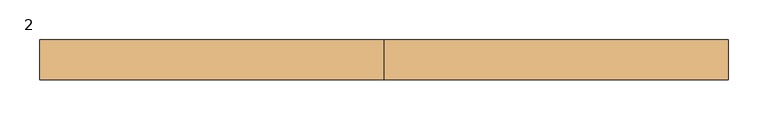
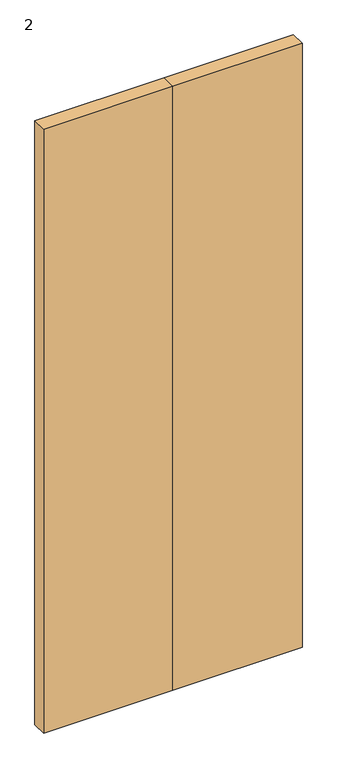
"""IFC4 building model written with IfcOpenShell, lengths in millimetres: door geometry, Planitar - Double Door_Flush Panel : 2."""

from ifc_helpers import new_model, si_unit, origin, origin_with_axes, place, context, project, spatial, polyline, outline, extrude, source, transform, mapped, element, save


def door_2_e783abe8(model_context):
    return source(origin(), model_context, "Body", "SweptSolid", [
        extrude(outline(polyline([(0.0, 57.15), (431.8, 57.15), (431.8, 7.15), (0.0, 7.15), (0.0, 57.15)])), origin_with_axes(), (0.0, 0.0, 1.0), 2133.6),
        extrude(outline(polyline([(-431.8, 57.15), (0.0, 57.15), (0.0, 7.15), (-431.8, 7.15), (-431.8, 57.15)])), origin_with_axes(), (0.0, 0.0, 1.0), 2133.6),
    ])


if __name__ == "__main__":
    model = new_model("IFC4")
    model_context = context("Model", 3, world=origin())
    ifc_project = project(units=[si_unit("LENGTHUNIT", "METRE", prefix="MILLI")], contexts=[model_context])
    site = spatial("IfcSite", under=ifc_project)
    building = spatial("IfcBuilding", under=site)
    placement = place(None, origin())
    door_2_shape = door_2_e783abe8(model_context)
    element("IfcDoor", 1, ObjectType="Planitar - Double Door_Flush Panel : 2", at=placement, inside=building, context=model_context, shape_type="MappedRepresentation", body=[
        mapped(door_2_shape, transform((0.0, 0.0, 0.0), x_axis=(1.0, 0.0, 0.0), y_axis=(0.0, 1.0, 0.0), z_axis=(0.0, 0.0, 1.0))),
    ])
    save(model, "model.ifc")
